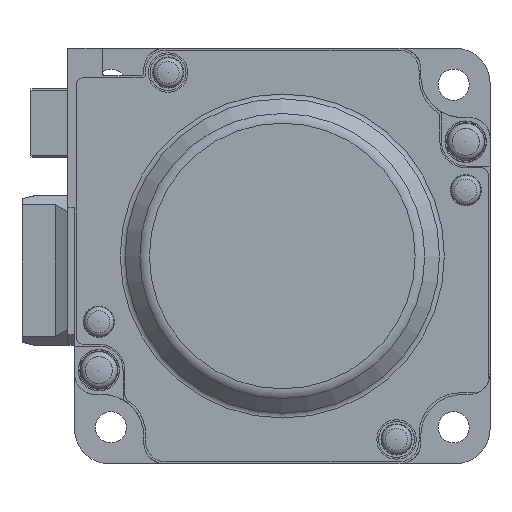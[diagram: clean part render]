
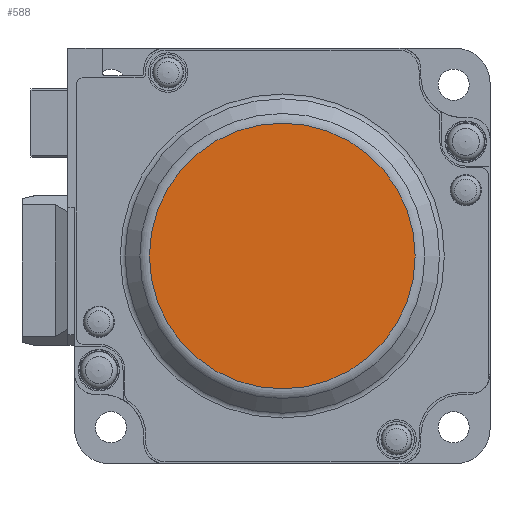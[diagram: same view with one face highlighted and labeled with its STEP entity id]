
A CAD part, left-side view. The second image highlights one B-rep face of the part: STEP entity #588.
In plain terms, the highlighted planar face has unit normal (-1, 0, 0).
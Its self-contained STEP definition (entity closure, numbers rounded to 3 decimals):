
#588 = ADVANCED_FACE( '', ( #1683 ), #1684, .F. );
#1683 = FACE_OUTER_BOUND( '', #3442, .T. );
#1684 = PLANE( '', #3443 );
#3442 = EDGE_LOOP( '', ( #5227 ) );
#3443 = AXIS2_PLACEMENT_3D( '', #5228, #5229, #5230 );
#5227 = ORIENTED_EDGE( '', *, *, #9896, .F. );
#5228 = CARTESIAN_POINT( '', ( -88., 17., 27. ) );
#5229 = DIRECTION( '', ( 1., 0., 0. ) );
#5230 = DIRECTION( '', ( 0., 0., -1. ) );
#9896 = EDGE_CURVE( '', #11757, #11757, #11758, .T. );
#11757 = VERTEX_POINT( '', #14484 );
#11758 = CIRCLE( '', #14485, 19.191 );
#14484 = CARTESIAN_POINT( '', ( -88., 0., -19.191 ) );
#14485 = AXIS2_PLACEMENT_3D( '', #18126, #18127, #18128 );
#18126 = CARTESIAN_POINT( '', ( -88., 0., 0. ) );
#18127 = DIRECTION( '', ( 1., 0., 0. ) );
#18128 = DIRECTION( '', ( 0., 0., -1. ) );
